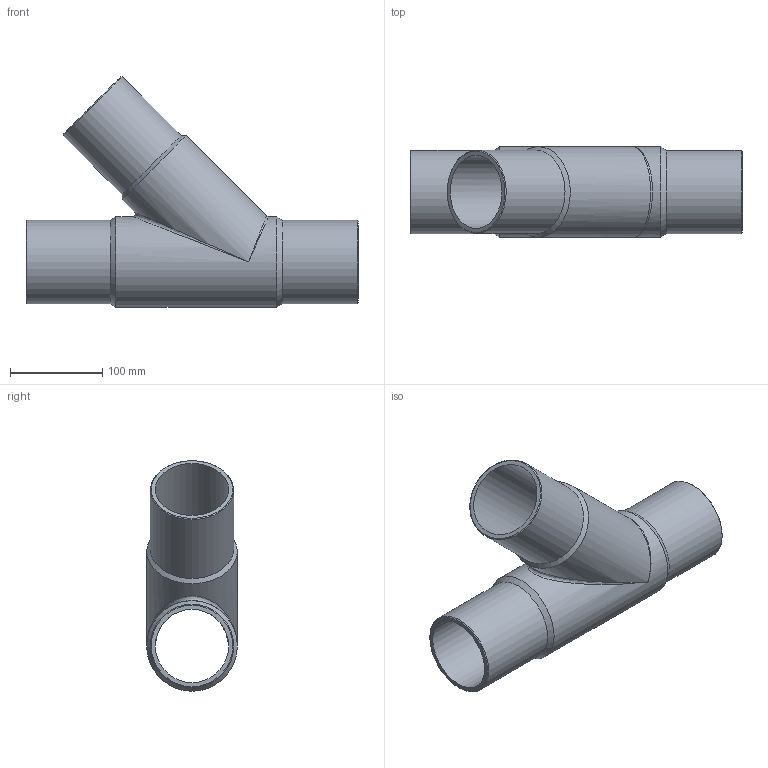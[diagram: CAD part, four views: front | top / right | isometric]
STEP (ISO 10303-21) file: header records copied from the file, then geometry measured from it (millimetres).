
FILE_DESCRIPTION(/* description */ ('Unknown'),/* implementation_level */ '2;1');
FILE_NAME(/* name */ 'T4P090B',/* time_stamp */ '2022-02-23T11:01:06+01:00',/* author */ ('Unknown'),/* organization */ ('Unknown'),/* preprocessor_version */ 'ST-DEVELOPER v18.1',/* originating_system */ 'Solid Edge',/* authorisation */ 'Unknown');
FILE_SCHEMA (('AUTOMOTIVE_DESIGN {1 0 10303 214 3 1 1}'));
Length unit declared in the file: millimetre
Products named in the file (1): T4P090B
Bounding box: 359 x 98 x 249.32 mm (x, y, z)
Volume: 1034725.1 mm3; surface area: 285929.9 mm2
Topology: 1 solids, 1 shells, 18 faces, 47 edges, 26 vertices
Faces by surface type: cylinder 7, cone 6, plane 3, bspline 2
Full cylindrical faces by diameter (mm): 79.2 x2, 90 x3, 98 x2
Entity records: 516 total; most frequent: CARTESIAN_POINT 159, DIRECTION 76, ORIENTED_EDGE 42, AXIS2_PLACEMENT_3D 38, EDGE_LOOP 36, FACE_BOUND 36, EDGE_CURVE 21, VERTEX_POINT 19
